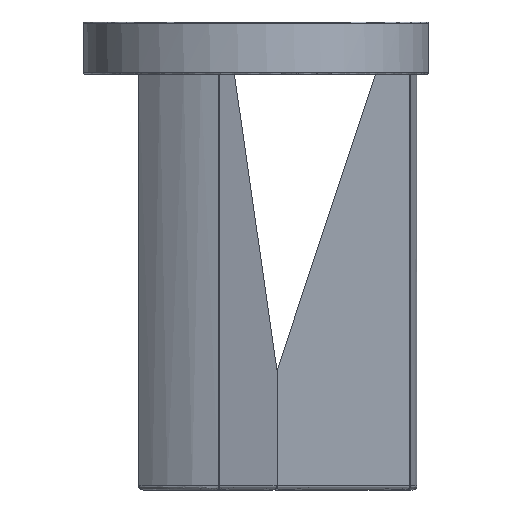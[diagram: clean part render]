
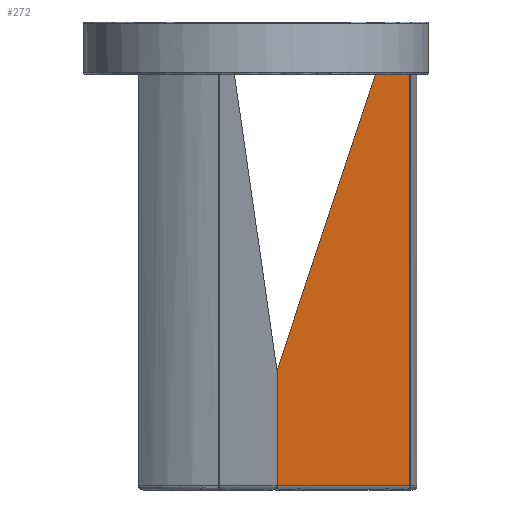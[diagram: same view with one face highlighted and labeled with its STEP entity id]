
A CAD part, left-side view. The second image highlights one B-rep face of the part: STEP entity #272.
In plain terms, the highlighted free-form (B-spline) face has degree [1, 1] with [2, 2] control points.
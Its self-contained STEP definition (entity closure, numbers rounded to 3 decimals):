
#272=ADVANCED_FACE('',(#330),#2481,.T.);
#330=FACE_OUTER_BOUND('',#388,.T.);
#388=EDGE_LOOP('',(#607,#608,#609,#610,#611));
#607=ORIENTED_EDGE('',*,*,#1862,.T.);
#608=ORIENTED_EDGE('',*,*,#1863,.T.);
#609=ORIENTED_EDGE('',*,*,#1864,.T.);
#610=ORIENTED_EDGE('',*,*,#1865,.T.);
#611=ORIENTED_EDGE('',*,*,#1866,.T.);
#1088=PCURVE('',#2481,#1348);
#1089=PCURVE('',#2481,#1349);
#1090=PCURVE('',#2481,#1350);
#1091=PCURVE('',#2481,#1351);
#1092=PCURVE('',#2481,#1352);
#1348=DEFINITIONAL_REPRESENTATION('',(#2145),#7824);
#1349=DEFINITIONAL_REPRESENTATION('',(#2147),#7824);
#1350=DEFINITIONAL_REPRESENTATION('',(#2149),#7824);
#1351=DEFINITIONAL_REPRESENTATION('',(#2151),#7824);
#1352=DEFINITIONAL_REPRESENTATION('',(#2153),#7824);
#1605=SURFACE_CURVE('',#2144,(#1088),.PCURVE_S1.);
#1606=SURFACE_CURVE('',#2146,(#1089),.PCURVE_S1.);
#1607=SURFACE_CURVE('',#2148,(#1090),.PCURVE_S1.);
#1608=SURFACE_CURVE('',#2150,(#1091),.PCURVE_S1.);
#1609=SURFACE_CURVE('',#2152,(#1092),.PCURVE_S1.);
#1862=EDGE_CURVE('',#2412,#2413,#1605,.T.);
#1863=EDGE_CURVE('',#2413,#2414,#1606,.T.);
#1864=EDGE_CURVE('',#2414,#2415,#1607,.T.);
#1865=EDGE_CURVE('',#2415,#2416,#1608,.T.);
#1866=EDGE_CURVE('',#2416,#2412,#1609,.T.);
#2144=B_SPLINE_CURVE_WITH_KNOTS('',1,(#6487,#6488),.UNSPECIFIED.,.F.,.F.,
(2,2),(4.,115.),.UNSPECIFIED.);
#2145=B_SPLINE_CURVE_WITH_KNOTS('',1,(#6489,#6490),.UNSPECIFIED.,.F.,.F.,
(2,2),(4.,115.),.UNSPECIFIED.);
#2146=B_SPLINE_CURVE_WITH_KNOTS('',1,(#6491,#6492),.UNSPECIFIED.,.F.,.F.,
(2,2),(-300.442,0.),.UNSPECIFIED.);
#2147=B_SPLINE_CURVE_WITH_KNOTS('',1,(#6493,#6494),.UNSPECIFIED.,.F.,.F.,
(2,2),(-300.442,0.),.UNSPECIFIED.);
#2148=B_SPLINE_CURVE_WITH_KNOTS('',1,(#6495,#6496),.UNSPECIFIED.,.F.,.F.,
(2,2),(-32.619,0.),.UNSPECIFIED.);
#2149=B_SPLINE_CURVE_WITH_KNOTS('',1,(#6497,#6498),.UNSPECIFIED.,.F.,.F.,
(2,2),(-32.619,0.),.UNSPECIFIED.);
#2150=B_SPLINE_CURVE_WITH_KNOTS('',1,(#6499,#6500),.UNSPECIFIED.,.F.,.F.,
(2,2),(-396.,0.),.UNSPECIFIED.);
#2151=B_SPLINE_CURVE_WITH_KNOTS('',1,(#6501,#6502),.UNSPECIFIED.,.F.,.F.,
(2,2),(-396.,0.),.UNSPECIFIED.);
#2152=B_SPLINE_CURVE_WITH_KNOTS('',1,(#6503,#6504),.UNSPECIFIED.,.F.,.F.,
(2,2),(-127.7,0.),.UNSPECIFIED.);
#2153=B_SPLINE_CURVE_WITH_KNOTS('',1,(#6505,#6506),.UNSPECIFIED.,.F.,.F.,
(2,2),(-127.7,0.),.UNSPECIFIED.);
#2412=VERTEX_POINT('',#6482);
#2413=VERTEX_POINT('',#6483);
#2414=VERTEX_POINT('',#6484);
#2415=VERTEX_POINT('',#6485);
#2416=VERTEX_POINT('',#6486);
#2481=B_SPLINE_SURFACE_WITH_KNOTS('',1,1,((#6478,#6479),(#6480,#6481)),
 .UNSPECIFIED.,.F.,.F.,.F.,(2,2),(2,2),(-399.96,3.96),
(-128.977,1.277),.UNSPECIFIED.);
#6478=CARTESIAN_POINT('',(-45.036,-148.794,403.96));
#6479=CARTESIAN_POINT('',(-34.9,-18.934,403.96));
#6480=CARTESIAN_POINT('',(-45.036,-148.794,0.04));
#6481=CARTESIAN_POINT('',(-34.9,-18.934,0.04));
#6482=CARTESIAN_POINT('',(-35.,-20.207,4.));
#6483=CARTESIAN_POINT('',(-35.,-20.207,115.));
#6484=CARTESIAN_POINT('',(-42.398,-115.,400.));
#6485=CARTESIAN_POINT('',(-44.937,-147.52,400.));
#6486=CARTESIAN_POINT('',(-44.937,-147.52,4.));
#6487=CARTESIAN_POINT('',(-35.,-20.207,4.));
#6488=CARTESIAN_POINT('',(-35.,-20.207,115.));
#6489=CARTESIAN_POINT('',(0.,0.));
#6490=CARTESIAN_POINT('',(-111.,0.));
#6491=CARTESIAN_POINT('',(-35.,-20.207,115.));
#6492=CARTESIAN_POINT('',(-42.398,-115.,400.));
#6493=CARTESIAN_POINT('',(-111.,0.));
#6494=CARTESIAN_POINT('',(-396.,-95.081));
#6495=CARTESIAN_POINT('',(-42.398,-115.,400.));
#6496=CARTESIAN_POINT('',(-44.937,-147.52,400.));
#6497=CARTESIAN_POINT('',(-396.,-95.081));
#6498=CARTESIAN_POINT('',(-396.,-127.7));
#6499=CARTESIAN_POINT('',(-44.937,-147.52,400.));
#6500=CARTESIAN_POINT('',(-44.937,-147.52,4.));
#6501=CARTESIAN_POINT('',(-396.,-127.7));
#6502=CARTESIAN_POINT('',(0.,-127.7));
#6503=CARTESIAN_POINT('',(-44.937,-147.52,4.));
#6504=CARTESIAN_POINT('',(-35.,-20.207,4.));
#6505=CARTESIAN_POINT('',(0.,-127.7));
#6506=CARTESIAN_POINT('',(0.,0.));
#7824=(
GEOMETRIC_REPRESENTATION_CONTEXT(2)
PARAMETRIC_REPRESENTATION_CONTEXT()
REPRESENTATION_CONTEXT('pspace','')
);
